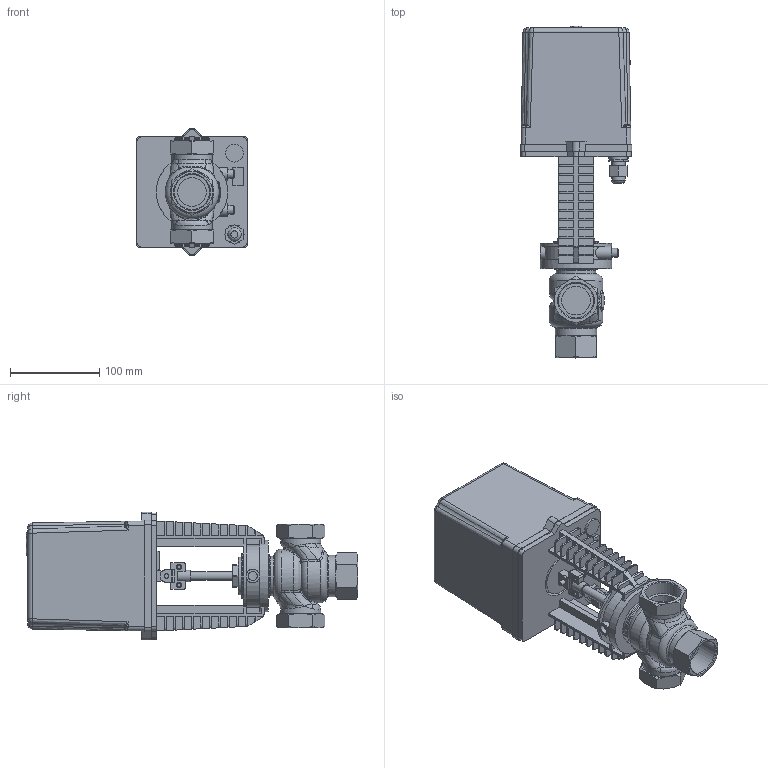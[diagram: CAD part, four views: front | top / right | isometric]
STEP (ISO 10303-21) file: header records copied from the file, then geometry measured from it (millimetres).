
FILE_DESCRIPTION(/* description */ ('D230-11266','CAx-IF Rec.Pracs.---Representation and Presentation of Product Manufacturing Information (PMI)---4.0---2014-10-13'),/* implementation_level */ '2;1');
FILE_NAME(/* name */ '',/* time_stamp */ '2026-04-07T19:13:21+03:00',/* author */ ('DN.RU'),/* organization */ ('DN.RU'),/* preprocessor_version */ 'ST-DEVELOPER v20',/* originating_system */ 'Autodesk Inventor 2025',/* authorisation */ '');
FILE_SCHEMA (('AP242_MANAGED_MODEL_BASED_3D_ENGINEERING_MIM_LF { 1 0 10303 442 1 1 4 }'));
Length unit declared in the file: millimetre
Products named in the file (1): VRg3M/S-31M-PED-T
Bounding box: 125 x 371 x 142.97 mm (x, y, z)
Volume: 2565011.1 mm3; surface area: 228961.6 mm2
Topology: 1 solids, 3 shells, 1106 faces, 2960 edges, 1895 vertices
Faces by surface type: plane 586, bspline 224, cylinder 170, cone 76, torus 36, sphere 14
Full cylindrical faces by diameter (mm): 5 x4, 6 x2, 8 x3, 8.5 x2, 10 x6, 13 x1, 15 x4, 18 x1, 20 x1, 32 x3, 38.95 x3, 42 x1, 44 x2, 44.95 x2, 45 x1, 46 x1, 48 x1, 50 x2, 55 x2, 80 x1
Entity records: 40700 total; most frequent: CARTESIAN_POINT 13298, ORIENTED_EDGE 5882, DIRECTION 4801, EDGE_CURVE 2941, VERTEX_POINT 1895, LINE 1703, VECTOR 1703, AXIS2_PLACEMENT_3D 1549
